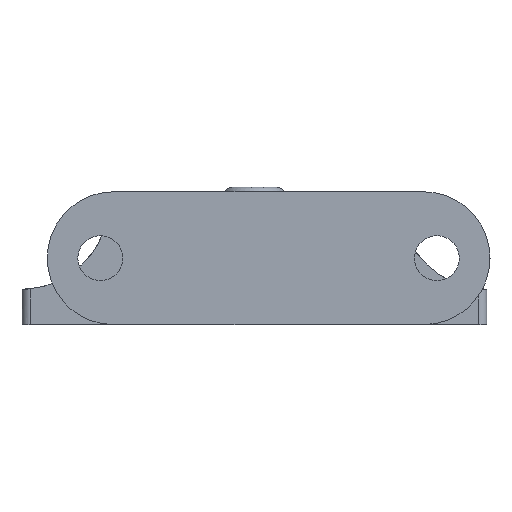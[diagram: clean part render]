
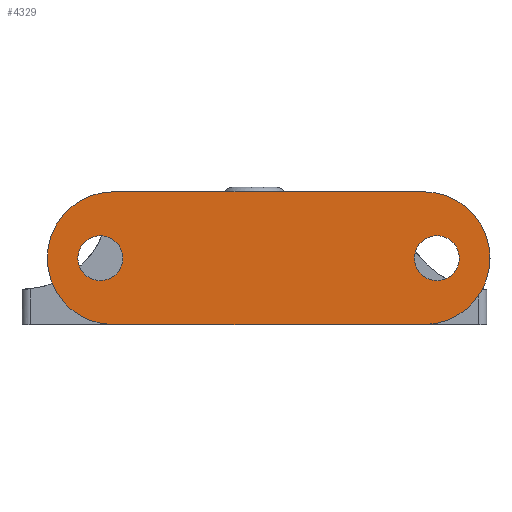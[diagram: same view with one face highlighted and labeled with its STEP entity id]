
A CAD part, left-side view. The second image highlights one B-rep face of the part: STEP entity #4329.
In plain terms, the highlighted planar face has unit normal (-1, 0, 0) as drawn and (0, 0, -1) by its records, which use the part's own axes.
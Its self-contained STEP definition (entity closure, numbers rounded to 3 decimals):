
#107=FACE_BOUND('',#847,.T.);
#108=FACE_BOUND('',#848,.T.);
#281=PLANE('',#4760);
#542=FACE_OUTER_BOUND('',#846,.T.);
#846=EDGE_LOOP('',(#3990,#3991,#3992,#3993));
#847=EDGE_LOOP('',(#3994));
#848=EDGE_LOOP('',(#3995));
#1009=CIRCLE('',#4746,2.536);
#1011=CIRCLE('',#4749,2.536);
#1013=CIRCLE('',#4752,7.5);
#1015=CIRCLE('',#4756,7.5);
#1400=LINE('',#7722,#1789);
#1404=LINE('',#7733,#1793);
#1789=VECTOR('',#5981,35.);
#1793=VECTOR('',#5993,35.);
#2196=VERTEX_POINT('',#7702);
#2198=VERTEX_POINT('',#7707);
#2200=VERTEX_POINT('',#7712);
#2201=VERTEX_POINT('',#7713);
#2204=VERTEX_POINT('',#7721);
#2206=VERTEX_POINT('',#7727);
#2788=EDGE_CURVE('',#2196,#2196,#1009,.T.);
#2790=EDGE_CURVE('',#2198,#2198,#1011,.T.);
#2792=EDGE_CURVE('',#2200,#2201,#1013,.T.);
#2796=EDGE_CURVE('',#2204,#2200,#1400,.T.);
#2799=EDGE_CURVE('',#2206,#2204,#1015,.T.);
#2802=EDGE_CURVE('',#2201,#2206,#1404,.T.);
#3990=ORIENTED_EDGE('',*,*,#2802,.F.);
#3991=ORIENTED_EDGE('',*,*,#2792,.F.);
#3992=ORIENTED_EDGE('',*,*,#2796,.F.);
#3993=ORIENTED_EDGE('',*,*,#2799,.F.);
#3994=ORIENTED_EDGE('',*,*,#2788,.T.);
#3995=ORIENTED_EDGE('',*,*,#2790,.T.);
#4329=ADVANCED_FACE('',(#542,#107,#108),#281,.F.);
#4746=AXIS2_PLACEMENT_3D('',#7703,#5961,#5962);
#4749=AXIS2_PLACEMENT_3D('',#7708,#5967,#5968);
#4752=AXIS2_PLACEMENT_3D('',#7714,#5973,#5974);
#4756=AXIS2_PLACEMENT_3D('',#7728,#5986,#5987);
#4760=AXIS2_PLACEMENT_3D('',#7736,#5997,#5998);
#5961=DIRECTION('center_axis',(0.,0.,1.));
#5962=DIRECTION('ref_axis',(1.,0.,0.));
#5967=DIRECTION('center_axis',(0.,0.,1.));
#5968=DIRECTION('ref_axis',(1.,0.,0.));
#5973=DIRECTION('center_axis',(0.,0.,1.));
#5974=DIRECTION('ref_axis',(0.,1.,0.));
#5981=DIRECTION('',(-1.,0.,0.));
#5986=DIRECTION('center_axis',(0.,0.,1.));
#5987=DIRECTION('ref_axis',(0.,-1.,0.));
#5993=DIRECTION('',(1.,0.,0.));
#5997=DIRECTION('center_axis',(0.,0.,1.));
#5998=DIRECTION('ref_axis',(1.,0.,0.));
#7702=CARTESIAN_POINT('',(3.464,0.,0.));
#7703=CARTESIAN_POINT('Origin',(6.,0.,0.));
#7707=CARTESIAN_POINT('',(41.464,0.,0.));
#7708=CARTESIAN_POINT('Origin',(44.,0.,0.));
#7712=CARTESIAN_POINT('',(7.5,7.5,0.));
#7713=CARTESIAN_POINT('',(7.5,-7.5,0.));
#7714=CARTESIAN_POINT('Origin',(7.5,0.,0.));
#7721=CARTESIAN_POINT('',(42.5,7.5,0.));
#7722=CARTESIAN_POINT('',(42.5,7.5,0.));
#7727=CARTESIAN_POINT('',(42.5,-7.5,0.));
#7728=CARTESIAN_POINT('Origin',(42.5,0.,0.));
#7733=CARTESIAN_POINT('',(7.5,-7.5,0.));
#7736=CARTESIAN_POINT('Origin',(25.,0.,0.));
